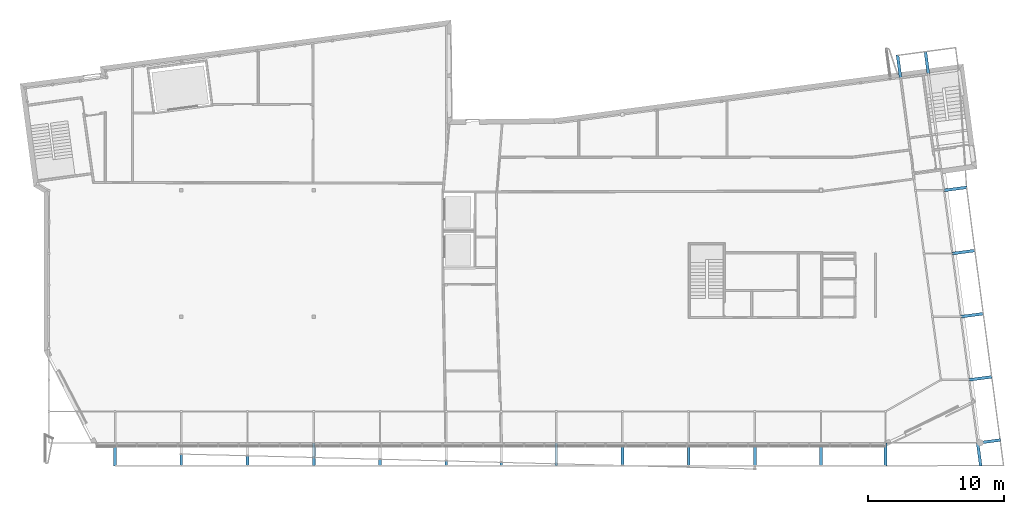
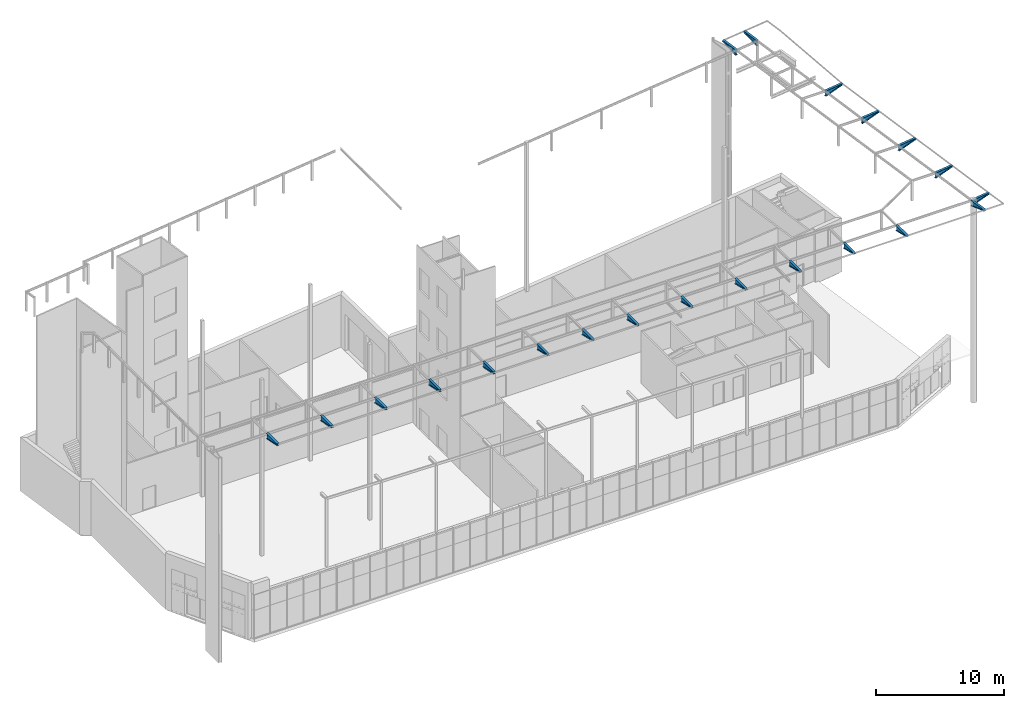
# One storey, part 30 of 40: 22 beams.
"""IFC2X3 building model written with IfcOpenShell, lengths in metres."""

import ifcopenshell
import ifcopenshell.guid

model = None  # the IFC model being written
_history = None  # IfcOwnerHistory: only IFC2X3 demands one
_inside = {}  # id of a spatial element -> (the spatial element, [elements in it])
_under = {}  # id of a project, library or spatial element -> (it, [spatial elements below it])
_declared = {}  # id of a project -> (the project, [libraries it declares])
_typed = {}  # id of a type object -> (the type object, [elements of that type])
_made_of = {}  # id of a material, layer set ... -> (it, [elements and type objects made of it])


def new_model(schema):
    """Start an empty IFC model of exactly this schema.

    Asked for "IFC4X3", IfcOpenShell would pick the latest addendum, in which some entities
    have other attributes; the version numbers below select the first issue.
    IFC2X3 requires an IfcOwnerHistory on every rooted entity: one is made here for all.
    """
    global model, _history
    if schema == "IFC4X3":
        model = ifcopenshell.file(schema_version=(4, 3, 0, 0))
    else:
        model = ifcopenshell.file(schema=schema)
    _inside.clear()
    _under.clear()
    _declared.clear()
    _typed.clear()
    _made_of.clear()
    _history = None
    if model.schema == "IFC2X3":
        org = make("IfcOrganization", Name="unknown")
        user = make(
            "IfcPersonAndOrganization",
            ThePerson=make("IfcPerson", FamilyName="unknown"),
            TheOrganization=org,
        )
        app = make(
            "IfcApplication",
            ApplicationDeveloper=org,
            Version="unknown",
            ApplicationFullName="unknown",
            ApplicationIdentifier="unknown",
        )
        _history = make(
            "IfcOwnerHistory",
            OwningUser=user,
            OwningApplication=app,
            ChangeAction="ADDED",
            CreationDate=0,
        )
    return model


def make(cls, **values):
    """One entity of the class cls with the attributes given. An attribute that is None is left unset."""
    return model.create_entity(
        cls, **{name: value for name, value in values.items() if value is not None}
    )


def entity(cls, *values):
    """Any entity or typed value of the class cls, its attributes in the order of the schema. None: left unset."""
    e = model.create_entity(cls)
    for i, value in enumerate(values):
        if value is not None:
            e[i] = value
    return e


def rooted(cls, **values):
    """An entity with a GlobalId (a new one), such as an element, a storey or a relation."""
    return make(cls, GlobalId=ifcopenshell.guid.new(), OwnerHistory=_history, **values)


def si_unit(unit_type, name, prefix=None):
    """IfcSIUnit, for example si_unit("LENGTHUNIT", "METRE", prefix="MILLI")."""
    return make("IfcSIUnit", UnitType=unit_type, Prefix=prefix, Name=name)


def converted_unit(unit_type, name, factor, base, dimensions=None, offset=None):
    """IfcConversionBasedUnit, such as the inch: factor (a typed value) times the base unit."""
    return make(
        "IfcConversionBasedUnit"
        if offset is None
        else "IfcConversionBasedUnitWithOffset",
        ConversionOffset=offset,
        Dimensions=None
        if dimensions is None
        else entity("IfcDimensionalExponents", *dimensions),
        UnitType=unit_type,
        Name=name,
        ConversionFactor=make(
            "IfcMeasureWithUnit", ValueComponent=factor, UnitComponent=base
        ),
    )


def money_unit(currency):
    """IfcMonetaryUnit."""
    return make("IfcMonetaryUnit", Currency=currency)


def assignment(units):
    """IfcUnitAssignment: the units of a project."""
    return None if units is None else make("IfcUnitAssignment", Units=units)


def point(xyz):
    """IfcCartesianPoint."""
    return None if xyz is None else make("IfcCartesianPoint", Coordinates=xyz)


def direction(xyz):
    """IfcDirection."""
    return None if xyz is None else make("IfcDirection", DirectionRatios=xyz)


def frame(location, z_axis=None, x_axis=None):
    """IfcAxis2Placement3D, a coordinate frame: its origin and axes. An axis left out is left unset."""
    return make(
        "IfcAxis2Placement3D",
        Location=point(location),
        Axis=direction(z_axis),
        RefDirection=direction(x_axis),
    )


def origin_with_axes():
    """The frame at (0, 0, 0) with the z axis (0, 0, 1) and the x axis (1, 0, 0) written out."""
    return frame((0.0, 0.0, 0.0), z_axis=(0.0, 0.0, 1.0), x_axis=(1.0, 0.0, 0.0))


def place(relative_to, where):
    """IfcLocalPlacement: puts the frame where relative to a parent placement (None: the world)."""
    return make(
        "IfcLocalPlacement", PlacementRelTo=relative_to, RelativePlacement=where
    )


def context(
    kind, dimensions, precision=None, world=None, true_north=None, identifier=None
):
    """IfcGeometricRepresentationContext, for example the 3D "Model" context."""
    return make(
        "IfcGeometricRepresentationContext",
        ContextIdentifier=identifier,
        ContextType=kind,
        CoordinateSpaceDimension=dimensions,
        Precision=precision,
        WorldCoordinateSystem=world,
        TrueNorth=true_north,
    )


def subcontext(parent, identifier, kind, view, scale=None):
    """IfcGeometricRepresentationSubContext, for example "Body" below "Model"."""
    return make(
        "IfcGeometricRepresentationSubContext",
        ContextIdentifier=identifier,
        ContextType=kind,
        ParentContext=parent,
        TargetScale=scale,
        TargetView=view,
    )


def project(units=None, contexts=None):
    """IfcProject with its units and contexts."""
    return rooted(
        "IfcProject",
        Name="project",
        RepresentationContexts=contexts,
        UnitsInContext=assignment(units),
    )


def spatial(cls, under=None, at=None, **own):
    """A site, building, storey or space (cls), placed at a placement, below another one or the project."""
    s = rooted(cls, ObjectPlacement=at, **own)
    if under is not None:
        _under.setdefault(under.id(), (under, []))[1].append(s)
    return s


def faces_of(points, faces, orient=None, outer=None):
    """IfcFace entities. A face is a list of loops; a loop is a list of indices into points, from 0.

    orient and outer hold one flag for each loop. By default every Orientation is true, the
    first loop of a face is its IfcFaceOuterBound and the others are IfcFaceBound.
    """
    made = []
    for i, loops in enumerate(faces):
        bounds = []
        for j, loop in enumerate(loops):
            is_outer = j == 0 if outer is None else outer[i][j]
            bounds.append(
                make(
                    "IfcFaceOuterBound" if is_outer else "IfcFaceBound",
                    Bound=make("IfcPolyLoop", Polygon=[points[k] for k in loop]),
                    Orientation=True if orient is None else orient[i][j],
                )
            )
        made.append(make("IfcFace", Bounds=bounds))
    return made


def faceted_brep(points, faces, orient=None, outer=None, voids=None):
    """IfcFacetedBrep: a solid bounded by flat faces; with voids (closed shells), ...WithVoids."""
    shared = [point(p) for p in points]
    hull = make("IfcClosedShell", CfsFaces=faces_of(shared, faces, orient, outer))
    if voids is None:
        return make("IfcFacetedBrep", Outer=hull)
    return make(
        "IfcFacetedBrepWithVoids",
        Outer=hull,
        Voids=[
            make(cls, CfsFaces=faces_of(shared, fs, o, b)) for cls, fs, o, b in voids
        ],
    )


def shape(context_of_items, identifier, shape_type, items):
    """IfcShapeRepresentation: the items that make up one representation, for example the "Body"."""
    return make(
        "IfcShapeRepresentation",
        ContextOfItems=context_of_items,
        RepresentationIdentifier=identifier,
        RepresentationType=shape_type,
        Items=items,
    )


def source(mapping_origin, context_of_items, identifier, shape_type, items):
    """IfcRepresentationMap: a shape defined once, which mapped items show again and again."""
    return make(
        "IfcRepresentationMap",
        MappingOrigin=mapping_origin,
        MappedRepresentation=shape(context_of_items, identifier, shape_type, items),
    )


def transform(
    local_origin,
    x_axis=None,
    y_axis=None,
    z_axis=None,
    scale=None,
    scale2=None,
    scale3=None,
    uniform=True,
):
    """IfcCartesianTransformationOperator3D, or its non-uniform kind. x_axis, y_axis, z_axis: its Axis1, 2, 3."""
    if uniform:
        return make(
            "IfcCartesianTransformationOperator3D",
            Axis1=direction(x_axis),
            Axis2=direction(y_axis),
            LocalOrigin=point(local_origin),
            Scale=scale,
            Axis3=direction(z_axis),
        )
    return make(
        "IfcCartesianTransformationOperator3DnonUniform",
        Axis1=direction(x_axis),
        Axis2=direction(y_axis),
        LocalOrigin=point(local_origin),
        Scale=scale,
        Axis3=direction(z_axis),
        Scale2=scale2,
        Scale3=scale3,
    )


def mapped(mapping_source, mapping_target):
    """IfcMappedItem: shows the shape of a source again, moved by a transform."""
    return make(
        "IfcMappedItem", MappingSource=mapping_source, MappingTarget=mapping_target
    )


def material(Name=None, Category=None):
    """IfcMaterial."""
    return make("IfcMaterial", Name=Name, Category=Category)


def made_of(thing, what):
    """Note that an element or type object is made of a material, layer set ...; save() writes the relation."""
    if what is not None:
        _made_of.setdefault(what.id(), (what, []))[1].append(thing)
    return thing


def type_object(cls, material=None, **own):
    """A type object (cls), such as IfcWallType, which elements share."""
    return made_of(rooted(cls, **own), material)


def element(
    cls,
    number,
    at=None,
    inside=None,
    cuts=None,
    type_object=None,
    material=None,
    context=None,
    identifier="Body",
    shape_type=None,
    held_by="IfcProductDefinitionShape",
    body=None,
    shapes=None,
    **own,
):
    """One element of the class cls, such as IfcWall. Its Tag is "e" and its number.

    at: its placement. inside: the storey or other place that contains it. cuts: it is an
    opening in that element (IfcRelVoidsElement). A single representation is given by context,
    identifier, shape_type and body (its items); several are given by shapes. held_by: the class
    of the entity that holds the representations. save() writes the other relations.
    """
    e = rooted(cls, Tag="e%d" % number, ObjectPlacement=at, **own)
    if body is not None:
        shapes = [shape(context, identifier, shape_type, body)]
    if shapes is not None:
        e.Representation = make(held_by, Representations=shapes)
    if inside is not None:
        _inside.setdefault(inside.id(), (inside, []))[1].append(e)
    if cuts is not None:
        rooted(
            "IfcRelVoidsElement", RelatingBuildingElement=cuts, RelatedOpeningElement=e
        )
    if type_object is not None:
        _typed.setdefault(type_object.id(), (type_object, []))[1].append(e)
    return made_of(e, material)


def aggregate(whole, parts):
    """IfcRelAggregates: a whole, such as a stair, and the parts it consists of."""
    return rooted("IfcRelAggregates", RelatingObject=whole, RelatedObjects=parts)


def save(model, path):
    """Write the relations noted so far, then the file.

    IfcRelAggregates (storeys below a building ...), IfcRelContainedInSpatialStructure (elements
    in a storey), IfcRelDefinesByType, IfcRelAssociatesMaterial and IfcRelDeclares: one each for
    every whole, place, type object, material and project.
    """
    for whole, parts in _under.values():
        aggregate(whole, parts)
    for where, things in _inside.values():
        rooted(
            "IfcRelContainedInSpatialStructure",
            RelatedElements=things,
            RelatingStructure=where,
        )
    for kind, things in _typed.values():
        rooted("IfcRelDefinesByType", RelatedObjects=things, RelatingType=kind)
    for what, things in _made_of.values():
        rooted("IfcRelAssociatesMaterial", RelatedObjects=things, RelatingMaterial=what)
    for by, libraries in _declared.values():
        rooted("IfcRelDeclares", RelatingContext=by, RelatedDefinitions=libraries)
    model.write(path)


model = new_model("IFC2X3")

# Units and contexts
model_context = context("Model", 3, precision=1e-05, world=origin_with_axes(), true_north=direction((0.0, 1.0)))
body_context = subcontext(model_context, "Body", "Model", "MODEL_VIEW")
ifc_project = project(units=[si_unit("LENGTHUNIT", "METRE"), si_unit("AREAUNIT", "SQUARE_METRE"), si_unit("VOLUMEUNIT", "CUBIC_METRE"), converted_unit("PLANEANGLEUNIT", "DEGREE", entity("IfcPlaneAngleMeasure", 0.0174532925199), si_unit("PLANEANGLEUNIT", "RADIAN"), dimensions=[0, 0, 0, 0, 0, 0, 0]), si_unit("SOLIDANGLEUNIT", "STERADIAN"), money_unit("EUR"), converted_unit("TIMEUNIT", "Year", entity("IfcTimeMeasure", 31556926.0), si_unit("TIMEUNIT", "SECOND"), dimensions=[0, 0, 0, 0, 0, 0, 0]), si_unit("MASSUNIT", "GRAM"), si_unit("THERMODYNAMICTEMPERATUREUNIT", "DEGREE_CELSIUS"), si_unit("LUMINOUSINTENSITYUNIT", "LUMEN")], contexts=[model_context])

# Site, building, storey
site_placement = place(None, origin_with_axes())
site = spatial("IfcSite", under=ifc_project, at=site_placement, Name="Undefined", CompositionType="ELEMENT")
building_placement = place(site_placement, origin_with_axes())
building = spatial("IfcBuilding", under=site, at=building_placement, Name="Undefined", CompositionType="ELEMENT")
storey_placement = place(building_placement, origin_with_axes())
storey = spatial("IfcBuildingStorey", under=building, at=storey_placement, Name="Rez de chauss\x8ee", CompositionType="ELEMENT", Elevation=0.0)

# Beams
ifc_material = material(Name="50 %")
beam_type_1 = type_object("IfcBeamType", Name="PHI533-200-10-14*210-14*210", PredefinedType="NOTDEFINED")
shared_shape_1 = source(origin_with_axes(), body_context, "Body", "Brep", [
    faceted_brep([(0.0, -0.105, 0.1), (0.0, -0.105, 0.086), (1.7, -0.105, 0.086), (1.7, -0.105, 0.1), (0.0, 0.105, 0.1), (0.0, 0.105, 0.086), (0.0, 0.005, 0.086), (0.0, 0.005, -0.418734), (0.0, 0.105, -0.418734), (0.0, 0.105, -0.433), (0.0, -0.105, -0.433), (0.0, -0.105, -0.418734), (0.0, -0.005, -0.418734), (0.0, -0.005, 0.086), (1.7, -0.005, 0.086), (1.7, -0.005, -0.085734), (1.7, -0.105, -0.085734), (1.7, -0.105, -0.1), (1.7, 0.105, -0.1), (1.7, 0.105, -0.085734), (1.7, 0.005, -0.085734), (1.7, 0.005, 0.086), (1.7, 0.105, 0.086), (1.7, 0.105, 0.1)], [[[0, 1, 2, 3]], [[4, 5, 6, 7, 8, 9, 10, 11, 12, 13, 1, 0]], [[1, 13, 14, 2]], [[14, 15, 16, 17, 18, 19, 20, 21, 22, 23, 3, 2]], [[4, 0, 3, 23]], [[5, 4, 23, 22]], [[6, 5, 22, 21]], [[7, 6, 21, 20]], [[8, 7, 20, 19]], [[9, 8, 19, 18]], [[10, 9, 18, 17]], [[11, 10, 17, 16]], [[12, 11, 16, 15]], [[13, 12, 15, 14]]]),
])
beam_1_placement = place(storey_placement, frame((4.87499951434, -4.04974360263e-10, 19.0250297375), z_axis=(0.0, 0.0, 1.0), x_axis=(0.0, -1.0, 0.0)))
element("IfcBeam", 1, at=beam_1_placement, inside=storey, type_object=beam_type_1, material=ifc_material, Name="BEAM", ObjectType="PHI533-200-10-14*210-14*210", context=body_context, shape_type="MappedRepresentation", body=[
    mapped(shared_shape_1, transform((0.0, 0.0, 0.0))),
])
shared_shape_2 = source(origin_with_axes(), body_context, "Body", "Brep", [
    faceted_brep([(0.0, -0.105, 0.1), (0.0, -0.105, 0.086), (1.7, -0.105, 0.086), (1.7, -0.105, 0.1), (0.0, 0.105, 0.1), (0.0, 0.105, 0.086), (0.0, 0.005, 0.086), (0.0, 0.005, -0.418734), (0.0, 0.105, -0.418734), (0.0, 0.105, -0.433), (0.0, -0.105, -0.433), (0.0, -0.105, -0.418734), (0.0, -0.005, -0.418734), (0.0, -0.005, 0.086), (1.7, -0.005, 0.086), (1.7, -0.005, -0.085734), (1.7, -0.105, -0.085734), (1.7, -0.105, -0.1), (1.7, 0.105, -0.1), (1.7, 0.105, -0.085734), (1.7, 0.005, -0.085734), (1.7, 0.005, 0.086), (1.7, 0.105, 0.086), (1.7, 0.105, 0.1)], [[[0, 1, 2, 3]], [[4, 5, 6, 7, 8, 9, 10, 11, 12, 13, 1, 0]], [[1, 13, 14, 2]], [[14, 15, 16, 17, 18, 19, 20, 21, 22, 23, 3, 2]], [[4, 0, 3, 23]], [[5, 4, 23, 22]], [[6, 5, 22, 21]], [[7, 6, 21, 20]], [[8, 7, 20, 19]], [[9, 8, 19, 18]], [[10, 9, 18, 17]], [[11, 10, 17, 16]], [[12, 11, 16, 15]], [[13, 12, 15, 14]]]),
])
beam_2_placement = place(storey_placement, frame((14.6249995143, -1.18659971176e-10, 19.0250297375), z_axis=(0.0, 0.0, 1.0), x_axis=(0.0, -1.0, 0.0)))
element("IfcBeam", 2, at=beam_2_placement, inside=storey, type_object=beam_type_1, material=ifc_material, Name="BEAM", ObjectType="PHI533-200-10-14*210-14*210", context=body_context, shape_type="MappedRepresentation", body=[
    mapped(shared_shape_2, transform((0.0, 0.0, 0.0))),
])
beam_type_2 = type_object("IfcBeamType", Name="PHI533-125-10-14*210-14*210", PredefinedType="NOTDEFINED")
shared_shape_3 = source(origin_with_axes(), body_context, "Body", "Brep", [
    faceted_brep([(0.0, -0.105, 0.0625), (0.0, -0.105, 0.0485), (1.7, -0.105, 0.0485), (1.7, -0.105, 0.0625), (0.0, 0.105, 0.0625), (0.0, 0.105, 0.0485), (0.0, 0.005, 0.0485), (0.0, 0.005, -0.456102), (0.0, 0.105, -0.456102), (0.0, 0.105, -0.4705), (0.0, -0.105, -0.4705), (0.0, -0.105, -0.456102), (0.0, -0.005, -0.456102), (0.0, -0.005, 0.0485), (1.7, -0.005, 0.0485), (1.7, -0.005, -0.048102), (1.7, -0.105, -0.048102), (1.7, -0.105, -0.0625), (1.7, 0.105, -0.0625), (1.7, 0.105, -0.048102), (1.7, 0.005, -0.048102), (1.7, 0.005, 0.0485), (1.7, 0.105, 0.0485), (1.7, 0.105, 0.0625)], [[[0, 1, 2, 3]], [[4, 5, 6, 7, 8, 9, 10, 11, 12, 13, 1, 0]], [[1, 13, 14, 2]], [[14, 15, 16, 17, 18, 19, 20, 21, 22, 23, 3, 2]], [[4, 0, 3, 23]], [[5, 4, 23, 22]], [[6, 5, 22, 21]], [[7, 6, 21, 20]], [[8, 7, 20, 19]], [[9, 8, 19, 18]], [[10, 9, 18, 17]], [[11, 10, 17, 16]], [[12, 11, 16, 15]], [[13, 12, 15, 14]]]),
])
beam_3_placement = place(storey_placement, frame((47.109681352, -5.3320313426e-08, 19.0250000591), z_axis=(0.0, 0.0, 1.0), x_axis=(0.0, -1.0, 0.0)))
element("IfcBeam", 3, at=beam_3_placement, inside=storey, type_object=beam_type_2, material=ifc_material, Name="BEAM", ObjectType="PHI533-125-10-14*210-14*210", context=body_context, shape_type="MappedRepresentation", body=[
    mapped(shared_shape_3, transform((0.0, 0.0, 0.0))),
])
shared_shape_4 = source(origin_with_axes(), body_context, "Body", "Brep", [
    faceted_brep([(0.0, -0.105, 0.0625), (0.0, -0.105, 0.0485), (1.7, -0.105, 0.0485), (1.7, -0.105, 0.0625), (0.0, 0.105, 0.0625), (0.0, 0.105, 0.0485), (0.0, 0.005, 0.0485), (0.0, 0.005, -0.456102), (0.0, 0.105, -0.456102), (0.0, 0.105, -0.4705), (0.0, -0.105, -0.4705), (0.0, -0.105, -0.456102), (0.0, -0.005, -0.456102), (0.0, -0.005, 0.0485), (1.7, -0.005, 0.0485), (1.7, -0.005, -0.048102), (1.7, -0.105, -0.048102), (1.7, -0.105, -0.0625), (1.7, 0.105, -0.0625), (1.7, 0.105, -0.048102), (1.7, 0.005, -0.048102), (1.7, 0.005, 0.0485), (1.7, 0.105, 0.0485), (1.7, 0.105, 0.0625)], [[[0, 1, 2, 3]], [[4, 5, 6, 7, 8, 9, 10, 11, 12, 13, 1, 0]], [[1, 13, 14, 2]], [[14, 15, 16, 17, 18, 19, 20, 21, 22, 23, 3, 2]], [[4, 0, 3, 23]], [[5, 4, 23, 22]], [[6, 5, 22, 21]], [[7, 6, 21, 20]], [[8, 7, 20, 19]], [[9, 8, 19, 18]], [[10, 9, 18, 17]], [[11, 10, 17, 16]], [[12, 11, 16, 15]], [[13, 12, 15, 14]]]),
])
beam_4_placement = place(storey_placement, frame((68.3826499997, 1.45996364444e-09, 19.025), z_axis=(0.0, 0.0, 1.0), x_axis=(0.991215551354, 0.132256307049, 0.0)))
element("IfcBeam", 4, at=beam_4_placement, inside=storey, type_object=beam_type_2, material=ifc_material, Name="BEAM", ObjectType="PHI533-125-10-14*210-14*210", context=body_context, shape_type="MappedRepresentation", body=[
    mapped(shared_shape_4, transform((0.0, 0.0, 0.0))),
])
shared_shape_5 = source(origin_with_axes(), body_context, "Body", "Brep", [
    faceted_brep([(0.0, -0.105, 0.0625), (0.0, -0.105, 0.0485), (1.7, -0.105, 0.0485), (1.7, -0.105, 0.0625), (0.0, 0.105, 0.0625), (0.0, 0.105, 0.0485), (0.0, 0.005, 0.0485), (0.0, 0.005, -0.456102), (0.0, 0.105, -0.456102), (0.0, 0.105, -0.4705), (0.0, -0.105, -0.4705), (0.0, -0.105, -0.456102), (0.0, -0.005, -0.456102), (0.0, -0.005, 0.0485), (1.7, -0.005, 0.0485), (1.7, -0.005, -0.048102), (1.7, -0.105, -0.048102), (1.7, -0.105, -0.0625), (1.7, 0.105, -0.0625), (1.7, 0.105, -0.048102), (1.7, 0.005, -0.048102), (1.7, 0.005, 0.0485), (1.7, 0.105, 0.0485), (1.7, 0.105, 0.0625)], [[[0, 1, 2, 3]], [[4, 5, 6, 7, 8, 9, 10, 11, 12, 13, 1, 0]], [[1, 13, 14, 2]], [[14, 15, 16, 17, 18, 19, 20, 21, 22, 23, 3, 2]], [[4, 0, 3, 23]], [[5, 4, 23, 22]], [[6, 5, 22, 21]], [[7, 6, 21, 20]], [[8, 7, 20, 19]], [[9, 8, 19, 18]], [[10, 9, 18, 17]], [[11, 10, 17, 16]], [[12, 11, 16, 15]], [[13, 12, 15, 14]]]),
])
beam_5_placement = place(storey_placement, frame((29.2574609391, -5.38445466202e-08, 19.024999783), z_axis=(0.0, 0.0, 1.0), x_axis=(0.0, -1.0, 0.0)))
element("IfcBeam", 5, at=beam_5_placement, inside=storey, type_object=beam_type_2, material=ifc_material, Name="BEAM", ObjectType="PHI533-125-10-14*210-14*210", context=body_context, shape_type="MappedRepresentation", body=[
    mapped(shared_shape_5, transform((0.0, 0.0, 0.0))),
])
shared_shape_6 = source(origin_with_axes(), body_context, "Body", "Brep", [
    faceted_brep([(0.0, -0.105, 0.0625), (0.0, -0.105, 0.0485), (1.7, -0.105, 0.0485), (1.7, -0.105, 0.0625), (0.0, 0.105, 0.0625), (0.0, 0.105, 0.0485), (0.0, 0.005, 0.0485), (0.0, 0.005, -0.456102), (0.0, 0.105, -0.456102), (0.0, 0.105, -0.4705), (0.0, -0.105, -0.4705), (0.0, -0.105, -0.456102), (0.0, -0.005, -0.456102), (0.0, -0.005, 0.0485), (1.7, -0.005, 0.0485), (1.7, -0.005, -0.048102), (1.7, -0.105, -0.048102), (1.7, -0.105, -0.0625), (1.7, 0.105, -0.0625), (1.7, 0.105, -0.048102), (1.7, 0.005, -0.048102), (1.7, 0.005, 0.0485), (1.7, 0.105, 0.0485), (1.7, 0.105, 0.0625)], [[[0, 1, 2, 3]], [[4, 5, 6, 7, 8, 9, 10, 11, 12, 13, 1, 0]], [[1, 13, 14, 2]], [[14, 15, 16, 17, 18, 19, 20, 21, 22, 23, 3, 2]], [[4, 0, 3, 23]], [[5, 4, 23, 22]], [[6, 5, 22, 21]], [[7, 6, 21, 20]], [[8, 7, 20, 19]], [[9, 8, 19, 18]], [[10, 9, 18, 17]], [[11, 10, 17, 16]], [[12, 11, 16, 15]], [[13, 12, 15, 14]]]),
])
beam_6_placement = place(storey_placement, frame((64.7585009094, 27.1605824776, 19.025), z_axis=(0.0, 0.0, 1.0), x_axis=(-0.132256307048, 0.991215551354, 0.0)))
element("IfcBeam", 6, at=beam_6_placement, inside=storey, type_object=beam_type_2, material=ifc_material, Name="BEAM", ObjectType="PHI533-125-10-14*210-14*210", context=body_context, shape_type="MappedRepresentation", body=[
    mapped(shared_shape_6, transform((0.0, 0.0, 0.0))),
])
shared_shape_7 = source(origin_with_axes(), body_context, "Body", "Brep", [
    faceted_brep([(0.0, -0.105, 0.0625), (0.0, -0.105, 0.0485), (1.7, -0.105, 0.0485), (1.7, -0.105, 0.0625), (0.0, 0.105, 0.0625), (0.0, 0.105, 0.0485), (0.0, 0.005, 0.0485), (0.0, 0.005, -0.456102), (0.0, 0.105, -0.456102), (0.0, 0.105, -0.4705), (0.0, -0.105, -0.4705), (0.0, -0.105, -0.456102), (0.0, -0.005, -0.456102), (0.0, -0.005, 0.0485), (1.7, -0.005, 0.0485), (1.7, -0.005, -0.048102), (1.7, -0.105, -0.048102), (1.7, -0.105, -0.0625), (1.7, 0.105, -0.0625), (1.7, 0.105, -0.048102), (1.7, 0.005, -0.048102), (1.7, 0.005, 0.0485), (1.7, 0.105, 0.0485), (1.7, 0.105, 0.0625)], [[[0, 1, 2, 3]], [[4, 5, 6, 7, 8, 9, 10, 11, 12, 13, 1, 0]], [[1, 13, 14, 2]], [[14, 15, 16, 17, 18, 19, 20, 21, 22, 23, 3, 2]], [[4, 0, 3, 23]], [[5, 4, 23, 22]], [[6, 5, 22, 21]], [[7, 6, 21, 20]], [[8, 7, 20, 19]], [[9, 8, 19, 18]], [[10, 9, 18, 17]], [[11, 10, 17, 16]], [[12, 11, 16, 15]], [[13, 12, 15, 14]]]),
])
beam_7_placement = place(storey_placement, frame((62.7066609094, 26.8868124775, 19.025), z_axis=(0.0, 0.0, 1.0), x_axis=(-0.132256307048, 0.991215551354, 0.0)))
element("IfcBeam", 7, at=beam_7_placement, inside=storey, type_object=beam_type_2, material=ifc_material, Name="BEAM", ObjectType="PHI533-125-10-14*210-14*210", context=body_context, shape_type="MappedRepresentation", body=[
    mapped(shared_shape_7, transform((0.0, 0.0, 0.0))),
])
shared_shape_8 = source(origin_with_axes(), body_context, "Body", "Brep", [
    faceted_brep([(0.0, -0.105, 0.0625), (0.0, -0.105, 0.0485), (1.7, -0.105, 0.0485), (1.7, -0.105, 0.0625), (0.0, 0.105, 0.0625), (0.0, 0.105, 0.0485), (0.0, 0.005, 0.0485), (0.0, 0.005, -0.456102), (0.0, 0.105, -0.456102), (0.0, 0.105, -0.4705), (0.0, -0.105, -0.4705), (0.0, -0.105, -0.456102), (0.0, -0.005, -0.456102), (0.0, -0.005, 0.0485), (1.7, -0.005, 0.0485), (1.7, -0.005, -0.048102), (1.7, -0.105, -0.048102), (1.7, -0.105, -0.0625), (1.7, 0.105, -0.0625), (1.7, 0.105, -0.048102), (1.7, 0.005, -0.048102), (1.7, 0.005, 0.0485), (1.7, 0.105, 0.0485), (1.7, 0.105, 0.0625)], [[[0, 1, 2, 3]], [[4, 5, 6, 7, 8, 9, 10, 11, 12, 13, 1, 0]], [[1, 13, 14, 2]], [[14, 15, 16, 17, 18, 19, 20, 21, 22, 23, 3, 2]], [[4, 0, 3, 23]], [[5, 4, 23, 22]], [[6, 5, 22, 21]], [[7, 6, 21, 20]], [[8, 7, 20, 19]], [[9, 8, 19, 18]], [[10, 9, 18, 17]], [[11, 10, 17, 16]], [[12, 11, 16, 15]], [[13, 12, 15, 14]]]),
])
beam_8_placement = place(storey_placement, frame((65.9105599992, 18.6012900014, 19.025), z_axis=(0.0, 0.0, 1.0), x_axis=(0.991215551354, 0.132256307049, 0.0)))
element("IfcBeam", 8, at=beam_8_placement, inside=storey, type_object=beam_type_2, material=ifc_material, Name="BEAM", ObjectType="PHI533-125-10-14*210-14*210", context=body_context, shape_type="MappedRepresentation", body=[
    mapped(shared_shape_8, transform((0.0, 0.0, 0.0))),
])
shared_shape_9 = source(origin_with_axes(), body_context, "Body", "Brep", [
    faceted_brep([(0.0, -0.105, 0.0625), (0.0, -0.105, 0.0485), (1.7, -0.105, 0.0485), (1.7, -0.105, 0.0625), (0.0, 0.105, 0.0625), (0.0, 0.105, 0.0485), (0.0, 0.005, 0.0485), (0.0, 0.005, -0.456102), (0.0, 0.105, -0.456102), (0.0, 0.105, -0.4705), (0.0, -0.105, -0.4705), (0.0, -0.105, -0.456102), (0.0, -0.005, -0.456102), (0.0, -0.005, 0.0485), (1.7, -0.005, 0.0485), (1.7, -0.005, -0.048102), (1.7, -0.105, -0.048102), (1.7, -0.105, -0.0625), (1.7, 0.105, -0.0625), (1.7, 0.105, -0.048102), (1.7, 0.005, -0.048102), (1.7, 0.005, 0.0485), (1.7, 0.105, 0.0485), (1.7, 0.105, 0.0625)], [[[0, 1, 2, 3]], [[4, 5, 6, 7, 8, 9, 10, 11, 12, 13, 1, 0]], [[1, 13, 14, 2]], [[14, 15, 16, 17, 18, 19, 20, 21, 22, 23, 3, 2]], [[4, 0, 3, 23]], [[5, 4, 23, 22]], [[6, 5, 22, 21]], [[7, 6, 21, 20]], [[8, 7, 20, 19]], [[9, 8, 19, 18]], [[10, 9, 18, 17]], [[11, 10, 17, 16]], [[12, 11, 16, 15]], [[13, 12, 15, 14]]]),
])
beam_9_placement = place(storey_placement, frame((66.5213299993, 13.9500000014, 19.025), z_axis=(0.0, 0.0, 1.0), x_axis=(0.991215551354, 0.132256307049, 0.0)))
element("IfcBeam", 9, at=beam_9_placement, inside=storey, type_object=beam_type_2, material=ifc_material, Name="BEAM", ObjectType="PHI533-125-10-14*210-14*210", context=body_context, shape_type="MappedRepresentation", body=[
    mapped(shared_shape_9, transform((0.0, 0.0, 0.0))),
])
shared_shape_10 = source(origin_with_axes(), body_context, "Body", "Brep", [
    faceted_brep([(0.0, -0.105, 0.0625), (0.0, -0.105, 0.0485), (1.7, -0.105, 0.0485), (1.7, -0.105, 0.0625), (0.0, 0.105, 0.0625), (0.0, 0.105, 0.0485), (0.0, 0.005, 0.0485), (0.0, 0.005, -0.456102), (0.0, 0.105, -0.456102), (0.0, 0.105, -0.4705), (0.0, -0.105, -0.4705), (0.0, -0.105, -0.456102), (0.0, -0.005, -0.456102), (0.0, -0.005, 0.0485), (1.7, -0.005, 0.0485), (1.7, -0.005, -0.048102), (1.7, -0.105, -0.048102), (1.7, -0.105, -0.0625), (1.7, 0.105, -0.0625), (1.7, 0.105, -0.048102), (1.7, 0.005, -0.048102), (1.7, 0.005, 0.0485), (1.7, 0.105, 0.0485), (1.7, 0.105, 0.0625)], [[[0, 1, 2, 3]], [[4, 5, 6, 7, 8, 9, 10, 11, 12, 13, 1, 0]], [[1, 13, 14, 2]], [[14, 15, 16, 17, 18, 19, 20, 21, 22, 23, 3, 2]], [[4, 0, 3, 23]], [[5, 4, 23, 22]], [[6, 5, 22, 21]], [[7, 6, 21, 20]], [[8, 7, 20, 19]], [[9, 8, 19, 18]], [[10, 9, 18, 17]], [[11, 10, 17, 16]], [[12, 11, 16, 15]], [[13, 12, 15, 14]]]),
])
beam_10_placement = place(storey_placement, frame((67.1417699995, 9.30000000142, 19.025), z_axis=(0.0, 0.0, 1.0), x_axis=(0.991215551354, 0.132256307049, 0.0)))
element("IfcBeam", 10, at=beam_10_placement, inside=storey, type_object=beam_type_2, material=ifc_material, Name="BEAM", ObjectType="PHI533-125-10-14*210-14*210", context=body_context, shape_type="MappedRepresentation", body=[
    mapped(shared_shape_10, transform((0.0, 0.0, 0.0))),
])
shared_shape_11 = source(origin_with_axes(), body_context, "Body", "Brep", [
    faceted_brep([(0.0, -0.105, 0.0625), (0.0, -0.105, 0.0485), (1.7, -0.105, 0.0485), (1.7, -0.105, 0.0625), (0.0, 0.105, 0.0625), (0.0, 0.105, 0.0485), (0.0, 0.005, 0.0485), (0.0, 0.005, -0.456102), (0.0, 0.105, -0.456102), (0.0, 0.105, -0.4705), (0.0, -0.105, -0.4705), (0.0, -0.105, -0.456102), (0.0, -0.005, -0.456102), (0.0, -0.005, 0.0485), (1.7, -0.005, 0.0485), (1.7, -0.005, -0.048102), (1.7, -0.105, -0.048102), (1.7, -0.105, -0.0625), (1.7, 0.105, -0.0625), (1.7, 0.105, -0.048102), (1.7, 0.005, -0.048102), (1.7, 0.005, 0.0485), (1.7, 0.105, 0.0485), (1.7, 0.105, 0.0625)], [[[0, 1, 2, 3]], [[4, 5, 6, 7, 8, 9, 10, 11, 12, 13, 1, 0]], [[1, 13, 14, 2]], [[14, 15, 16, 17, 18, 19, 20, 21, 22, 23, 3, 2]], [[4, 0, 3, 23]], [[5, 4, 23, 22]], [[6, 5, 22, 21]], [[7, 6, 21, 20]], [[8, 7, 20, 19]], [[9, 8, 19, 18]], [[10, 9, 18, 17]], [[11, 10, 17, 16]], [[12, 11, 16, 15]], [[13, 12, 15, 14]]]),
])
beam_11_placement = place(storey_placement, frame((68.3826499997, 1.45996364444e-09, 19.025), z_axis=(0.0, 0.0, 1.0), x_axis=(0.132225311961, -0.991219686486, 0.0)))
element("IfcBeam", 11, at=beam_11_placement, inside=storey, type_object=beam_type_2, material=ifc_material, Name="BEAM", ObjectType="PHI533-125-10-14*210-14*210", context=body_context, shape_type="MappedRepresentation", body=[
    mapped(shared_shape_11, transform((0.0, 0.0, 0.0))),
])
shared_shape_12 = source(origin_with_axes(), body_context, "Body", "Brep", [
    faceted_brep([(0.0, -0.105, 0.1), (0.0, -0.105, 0.086), (1.7, -0.105, 0.086), (1.7, -0.105, 0.1), (0.0, 0.105, 0.1), (0.0, 0.105, 0.086), (0.0, 0.005, 0.086), (0.0, 0.005, -0.418734), (0.0, 0.105, -0.418734), (0.0, 0.105, -0.433), (0.0, -0.105, -0.433), (0.0, -0.105, -0.418734), (0.0, -0.005, -0.418734), (0.0, -0.005, 0.086), (1.7, -0.005, 0.086), (1.7, -0.005, -0.085734), (1.7, -0.105, -0.085734), (1.7, -0.105, -0.1), (1.7, 0.105, -0.1), (1.7, 0.105, -0.085734), (1.7, 0.005, -0.085734), (1.7, 0.005, 0.086), (1.7, 0.105, 0.086), (1.7, 0.105, 0.1)], [[[0, 1, 2, 3]], [[4, 5, 6, 7, 8, 9, 10, 11, 12, 13, 1, 0]], [[1, 13, 14, 2]], [[14, 15, 16, 17, 18, 19, 20, 21, 22, 23, 3, 2]], [[4, 0, 3, 23]], [[5, 4, 23, 22]], [[6, 5, 22, 21]], [[7, 6, 21, 20]], [[8, 7, 20, 19]], [[9, 8, 19, 18]], [[10, 9, 18, 17]], [[11, 10, 17, 16]], [[12, 11, 16, 15]], [[13, 12, 15, 14]]]),
])
beam_12_placement = place(storey_placement, frame((9.74999999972, -2.61817149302e-10, 19.025), z_axis=(0.0, 0.0, 1.0), x_axis=(0.0, -1.0, 0.0)))
element("IfcBeam", 12, at=beam_12_placement, inside=storey, type_object=beam_type_1, material=ifc_material, Name="BEAM", ObjectType="PHI533-200-10-14*210-14*210", context=body_context, shape_type="MappedRepresentation", body=[
    mapped(shared_shape_12, transform((0.0, 0.0, 0.0))),
])
shared_shape_13 = source(origin_with_axes(), body_context, "Body", "Brep", [
    faceted_brep([(0.0, -0.105, 0.0625), (0.0, -0.105, 0.0485), (1.7, -0.105, 0.0485), (1.7, -0.105, 0.0625), (0.0, 0.105, 0.0625), (0.0, 0.105, 0.0485), (0.0, 0.005, 0.0485), (0.0, 0.005, -0.456102), (0.0, 0.105, -0.456102), (0.0, 0.105, -0.4705), (0.0, -0.105, -0.4705), (0.0, -0.105, -0.456102), (0.0, -0.005, -0.456102), (0.0, -0.005, 0.0485), (1.7, -0.005, 0.0485), (1.7, -0.005, -0.048102), (1.7, -0.105, -0.048102), (1.7, -0.105, -0.0625), (1.7, 0.105, -0.0625), (1.7, 0.105, -0.048102), (1.7, 0.005, -0.048102), (1.7, 0.005, 0.0485), (1.7, 0.105, 0.0485), (1.7, 0.105, 0.0625)], [[[0, 1, 2, 3]], [[4, 5, 6, 7, 8, 9, 10, 11, 12, 13, 1, 0]], [[1, 13, 14, 2]], [[14, 15, 16, 17, 18, 19, 20, 21, 22, 23, 3, 2]], [[4, 0, 3, 23]], [[5, 4, 23, 22]], [[6, 5, 22, 21]], [[7, 6, 21, 20]], [[8, 7, 20, 19]], [[9, 8, 19, 18]], [[10, 9, 18, 17]], [[11, 10, 17, 16]], [[12, 11, 16, 15]], [[13, 12, 15, 14]]]),
])
beam_13_placement = place(storey_placement, frame((37.3596818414, -5.36066223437e-08, 19.0249997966), z_axis=(0.0, 0.0, 1.0), x_axis=(0.0, -1.0, 0.0)))
element("IfcBeam", 13, at=beam_13_placement, inside=storey, type_object=beam_type_2, material=ifc_material, Name="BEAM", ObjectType="PHI533-125-10-14*210-14*210", context=body_context, shape_type="MappedRepresentation", body=[
    mapped(shared_shape_13, transform((0.0, 0.0, 0.0))),
])
shared_shape_14 = source(origin_with_axes(), body_context, "Body", "Brep", [
    faceted_brep([(0.0, -0.105, 0.0625), (0.0, -0.105, 0.0485), (1.7, -0.105, 0.0485), (1.7, -0.105, 0.0625), (0.0, 0.105, 0.0625), (0.0, 0.105, 0.0485), (0.0, 0.005, 0.0485), (0.0, 0.005, -0.456102), (0.0, 0.105, -0.456102), (0.0, 0.105, -0.4705), (0.0, -0.105, -0.4705), (0.0, -0.105, -0.456102), (0.0, -0.005, -0.456102), (0.0, -0.005, 0.0485), (1.7, -0.005, 0.0485), (1.7, -0.005, -0.048102), (1.7, -0.105, -0.048102), (1.7, -0.105, -0.0625), (1.7, 0.105, -0.0625), (1.7, 0.105, -0.048102), (1.7, 0.005, -0.048102), (1.7, 0.005, 0.0485), (1.7, 0.105, 0.0485), (1.7, 0.105, 0.0625)], [[[0, 1, 2, 3]], [[4, 5, 6, 7, 8, 9, 10, 11, 12, 13, 1, 0]], [[1, 13, 14, 2]], [[14, 15, 16, 17, 18, 19, 20, 21, 22, 23, 3, 2]], [[4, 0, 3, 23]], [[5, 4, 23, 22]], [[6, 5, 22, 21]], [[7, 6, 21, 20]], [[8, 7, 20, 19]], [[9, 8, 19, 18]], [[10, 9, 18, 17]], [[11, 10, 17, 16]], [[12, 11, 16, 15]], [[13, 12, 15, 14]]]),
])
beam_14_placement = place(storey_placement, frame((42.2346818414, -5.34634642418e-08, 19.0250297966), z_axis=(0.0, 0.0, 1.0), x_axis=(0.0, -1.0, 0.0)))
element("IfcBeam", 14, at=beam_14_placement, inside=storey, type_object=beam_type_2, material=ifc_material, Name="BEAM", ObjectType="PHI533-125-10-14*210-14*210", context=body_context, shape_type="MappedRepresentation", body=[
    mapped(shared_shape_14, transform((0.0, 0.0, 0.0))),
])
shared_shape_15 = source(origin_with_axes(), body_context, "Body", "Brep", [
    faceted_brep([(0.0, -0.105, 0.1), (0.0, -0.105, 0.086), (1.7, -0.105, 0.086), (1.7, -0.105, 0.1), (0.0, 0.105, 0.1), (0.0, 0.105, 0.086), (0.0, 0.005, 0.086), (0.0, 0.005, -0.418734), (0.0, 0.105, -0.418734), (0.0, 0.105, -0.433), (0.0, -0.105, -0.433), (0.0, -0.105, -0.418734), (0.0, -0.005, -0.418734), (0.0, -0.005, 0.086), (1.7, -0.005, 0.086), (1.7, -0.005, -0.085734), (1.7, -0.105, -0.085734), (1.7, -0.105, -0.1), (1.7, 0.105, -0.1), (1.7, 0.105, -0.085734), (1.7, 0.005, -0.085734), (1.7, 0.005, 0.086), (1.7, 0.105, 0.086), (1.7, 0.105, 0.1)], [[[0, 1, 2, 3]], [[4, 5, 6, 7, 8, 9, 10, 11, 12, 13, 1, 0]], [[1, 13, 14, 2]], [[14, 15, 16, 17, 18, 19, 20, 21, 22, 23, 3, 2]], [[4, 0, 3, 23]], [[5, 4, 23, 22]], [[6, 5, 22, 21]], [[7, 6, 21, 20]], [[8, 7, 20, 19]], [[9, 8, 19, 18]], [[10, 9, 18, 17]], [[11, 10, 17, 16]], [[12, 11, 16, 15]], [[13, 12, 15, 14]]]),
])
beam_15_placement = place(storey_placement, frame((19.5074609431, 0.000209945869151, 19.025059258), z_axis=(0.0, 0.0, 1.0), x_axis=(0.0, -1.0, 0.0)))
element("IfcBeam", 15, at=beam_15_placement, inside=storey, type_object=beam_type_1, material=ifc_material, Name="BEAM", ObjectType="PHI533-200-10-14*210-14*210", context=body_context, shape_type="MappedRepresentation", body=[
    mapped(shared_shape_15, transform((0.0, 0.0, 0.0))),
])
shared_shape_16 = source(origin_with_axes(), body_context, "Body", "Brep", [
    faceted_brep([(0.0, -0.105, 0.0625), (0.0, -0.105, 0.0485), (1.7, -0.105, 0.0485), (1.7, -0.105, 0.0625), (0.0, 0.105, 0.0625), (0.0, 0.105, 0.0485), (0.0, 0.005, 0.0485), (0.0, 0.005, -0.456102), (0.0, 0.105, -0.456102), (0.0, 0.105, -0.4705), (0.0, -0.105, -0.4705), (0.0, -0.105, -0.456102), (0.0, -0.005, -0.456102), (0.0, -0.005, 0.0485), (1.7, -0.005, 0.0485), (1.7, -0.005, -0.048102), (1.7, -0.105, -0.048102), (1.7, -0.105, -0.0625), (1.7, 0.105, -0.0625), (1.7, 0.105, -0.048102), (1.7, 0.005, -0.048102), (1.7, 0.005, 0.0485), (1.7, 0.105, 0.0485), (1.7, 0.105, 0.0625)], [[[0, 1, 2, 3]], [[4, 5, 6, 7, 8, 9, 10, 11, 12, 13, 1, 0]], [[1, 13, 14, 2]], [[14, 15, 16, 17, 18, 19, 20, 21, 22, 23, 3, 2]], [[4, 0, 3, 23]], [[5, 4, 23, 22]], [[6, 5, 22, 21]], [[7, 6, 21, 20]], [[8, 7, 20, 19]], [[9, 8, 19, 18]], [[10, 9, 18, 17]], [[11, 10, 17, 16]], [[12, 11, 16, 15]], [[13, 12, 15, 14]]]),
])
beam_16_placement = place(storey_placement, frame((61.6096818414, -5.28945134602e-08, 19.0250297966), z_axis=(0.0, 0.0, 1.0), x_axis=(0.0, -1.0, 0.0)))
element("IfcBeam", 16, at=beam_16_placement, inside=storey, type_object=beam_type_2, material=ifc_material, Name="BEAM", ObjectType="PHI533-125-10-14*210-14*210", context=body_context, shape_type="MappedRepresentation", body=[
    mapped(shared_shape_16, transform((0.0, 0.0, 0.0))),
])
shared_shape_17 = source(origin_with_axes(), body_context, "Body", "Brep", [
    faceted_brep([(0.0, -0.105, 0.0625), (0.0, -0.105, 0.0485), (1.7, -0.105, 0.0485), (1.7, -0.105, 0.0625), (0.0, 0.105, 0.0625), (0.0, 0.105, 0.0485), (0.0, 0.005, 0.0485), (0.0, 0.005, -0.456102), (0.0, 0.105, -0.456102), (0.0, 0.105, -0.4705), (0.0, -0.105, -0.4705), (0.0, -0.105, -0.456102), (0.0, -0.005, -0.456102), (0.0, -0.005, 0.0485), (1.7, -0.005, 0.0485), (1.7, -0.005, -0.048102), (1.7, -0.105, -0.048102), (1.7, -0.105, -0.0625), (1.7, 0.105, -0.0625), (1.7, 0.105, -0.048102), (1.7, 0.005, -0.048102), (1.7, 0.005, 0.0485), (1.7, 0.105, 0.0485), (1.7, 0.105, 0.0625)], [[[0, 1, 2, 3]], [[4, 5, 6, 7, 8, 9, 10, 11, 12, 13, 1, 0]], [[1, 13, 14, 2]], [[14, 15, 16, 17, 18, 19, 20, 21, 22, 23, 3, 2]], [[4, 0, 3, 23]], [[5, 4, 23, 22]], [[6, 5, 22, 21]], [[7, 6, 21, 20]], [[8, 7, 20, 19]], [[9, 8, 19, 18]], [[10, 9, 18, 17]], [[11, 10, 17, 16]], [[12, 11, 16, 15]], [[13, 12, 15, 14]]]),
])
beam_17_placement = place(storey_placement, frame((56.8596818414, -5.30340117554e-08, 19.0249997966), z_axis=(0.0, 0.0, 1.0), x_axis=(0.0, -1.0, 0.0)))
element("IfcBeam", 17, at=beam_17_placement, inside=storey, type_object=beam_type_2, material=ifc_material, Name="BEAM", ObjectType="PHI533-125-10-14*210-14*210", context=body_context, shape_type="MappedRepresentation", body=[
    mapped(shared_shape_17, transform((0.0, 0.0, 0.0))),
])
shared_shape_18 = source(origin_with_axes(), body_context, "Body", "Brep", [
    faceted_brep([(0.0, -0.105, 0.0625), (0.0, -0.105, 0.0485), (1.7, -0.105, 0.0485), (1.7, -0.105, 0.0625), (0.0, 0.105, 0.0625), (0.0, 0.105, 0.0485), (0.0, 0.005, 0.0485), (0.0, 0.005, -0.456102), (0.0, 0.105, -0.456102), (0.0, 0.105, -0.4705), (0.0, -0.105, -0.4705), (0.0, -0.105, -0.456102), (0.0, -0.005, -0.456102), (0.0, -0.005, 0.0485), (1.7, -0.005, 0.0485), (1.7, -0.005, -0.048102), (1.7, -0.105, -0.048102), (1.7, -0.105, -0.0625), (1.7, 0.105, -0.0625), (1.7, 0.105, -0.048102), (1.7, 0.005, -0.048102), (1.7, 0.005, 0.0485), (1.7, 0.105, 0.0485), (1.7, 0.105, 0.0625)], [[[0, 1, 2, 3]], [[4, 5, 6, 7, 8, 9, 10, 11, 12, 13, 1, 0]], [[1, 13, 14, 2]], [[14, 15, 16, 17, 18, 19, 20, 21, 22, 23, 3, 2]], [[4, 0, 3, 23]], [[5, 4, 23, 22]], [[6, 5, 22, 21]], [[7, 6, 21, 20]], [[8, 7, 20, 19]], [[9, 8, 19, 18]], [[10, 9, 18, 17]], [[11, 10, 17, 16]], [[12, 11, 16, 15]], [[13, 12, 15, 14]]]),
])
beam_18_placement = place(storey_placement, frame((51.9846818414, -5.31771771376e-08, 19.0250297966), z_axis=(0.0, 0.0, 1.0), x_axis=(0.0, -1.0, 0.0)))
element("IfcBeam", 18, at=beam_18_placement, inside=storey, type_object=beam_type_2, material=ifc_material, Name="BEAM", ObjectType="PHI533-125-10-14*210-14*210", context=body_context, shape_type="MappedRepresentation", body=[
    mapped(shared_shape_18, transform((0.0, 0.0, 0.0))),
])
shared_shape_19 = source(origin_with_axes(), body_context, "Body", "Brep", [
    faceted_brep([(0.0, -0.105, 0.0625), (0.0, -0.105, 0.0485), (1.7, -0.105, 0.0485), (1.7, -0.105, 0.0625), (0.0, 0.105, 0.0625), (0.0, 0.105, 0.0485), (0.0, 0.005, 0.0485), (0.0, 0.005, -0.456102), (0.0, 0.105, -0.456102), (0.0, 0.105, -0.4705), (0.0, -0.105, -0.4705), (0.0, -0.105, -0.456102), (0.0, -0.005, -0.456102), (0.0, -0.005, 0.0485), (1.7, -0.005, 0.0485), (1.7, -0.005, -0.048102), (1.7, -0.105, -0.048102), (1.7, -0.105, -0.0625), (1.7, 0.105, -0.0625), (1.7, 0.105, -0.048102), (1.7, 0.005, -0.048102), (1.7, 0.005, 0.0485), (1.7, 0.105, 0.0485), (1.7, 0.105, 0.0625)], [[[0, 1, 2, 3]], [[4, 5, 6, 7, 8, 9, 10, 11, 12, 13, 1, 0]], [[1, 13, 14, 2]], [[14, 15, 16, 17, 18, 19, 20, 21, 22, 23, 3, 2]], [[4, 0, 3, 23]], [[5, 4, 23, 22]], [[6, 5, 22, 21]], [[7, 6, 21, 20]], [[8, 7, 20, 19]], [[9, 8, 19, 18]], [[10, 9, 18, 17]], [[11, 10, 17, 16]], [[12, 11, 16, 15]], [[13, 12, 15, 14]]]),
])
beam_19_placement = place(storey_placement, frame((67.7622099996, 4.65000000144, 19.025), z_axis=(0.0, 0.0, 1.0), x_axis=(0.991215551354, 0.132256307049, 0.0)))
element("IfcBeam", 19, at=beam_19_placement, inside=storey, type_object=beam_type_2, material=ifc_material, Name="BEAM", ObjectType="PHI533-125-10-14*210-14*210", context=body_context, shape_type="MappedRepresentation", body=[
    mapped(shared_shape_19, transform((0.0, 0.0, 0.0))),
])
shared_shape_20 = source(origin_with_axes(), body_context, "Body", "Brep", [
    faceted_brep([(0.0, -0.105, 0.0625), (0.0, -0.105, 0.0485), (1.7, -0.105, 0.0485), (1.7, -0.105, 0.0625), (0.0, 0.105, 0.0625), (0.0, 0.105, 0.0485), (0.0, 0.005, 0.0485), (0.0, 0.005, -0.456102), (0.0, 0.105, -0.456102), (0.0, 0.105, -0.4705), (0.0, -0.105, -0.4705), (0.0, -0.105, -0.456102), (0.0, -0.005, -0.456102), (0.0, -0.005, 0.0485), (1.7, -0.005, 0.0485), (1.7, -0.005, -0.048102), (1.7, -0.105, -0.048102), (1.7, -0.105, -0.0625), (1.7, 0.105, -0.0625), (1.7, 0.105, -0.048102), (1.7, 0.005, -0.048102), (1.7, 0.005, 0.0485), (1.7, 0.105, 0.0485), (1.7, 0.105, 0.0625)], [[[0, 1, 2, 3]], [[4, 5, 6, 7, 8, 9, 10, 11, 12, 13, 1, 0]], [[1, 13, 14, 2]], [[14, 15, 16, 17, 18, 19, 20, 21, 22, 23, 3, 2]], [[4, 0, 3, 23]], [[5, 4, 23, 22]], [[6, 5, 22, 21]], [[7, 6, 21, 20]], [[8, 7, 20, 19]], [[9, 8, 19, 18]], [[10, 9, 18, 17]], [[11, 10, 17, 16]], [[12, 11, 16, 15]], [[13, 12, 15, 14]]]),
])
beam_20_placement = place(storey_placement, frame((33.3074609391, -5.37256152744e-08, 19.025029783), z_axis=(0.0, 0.0, 1.0), x_axis=(0.0, -1.0, 0.0)))
element("IfcBeam", 20, at=beam_20_placement, inside=storey, type_object=beam_type_2, material=ifc_material, Name="BEAM", ObjectType="PHI533-125-10-14*210-14*210", context=body_context, shape_type="MappedRepresentation", body=[
    mapped(shared_shape_20, transform((0.0, 0.0, 0.0))),
])
shared_shape_21 = source(origin_with_axes(), body_context, "Body", "Brep", [
    faceted_brep([(0.0, -0.105, 0.1), (0.0, -0.105, 0.086), (1.7, -0.105, 0.086), (1.7, -0.105, 0.1), (0.0, 0.105, 0.1), (0.0, 0.105, 0.086), (0.0, 0.005, 0.086), (0.0, 0.005, -0.418734), (0.0, 0.105, -0.418734), (0.0, 0.105, -0.433), (0.0, -0.105, -0.433), (0.0, -0.105, -0.418734), (0.0, -0.005, -0.418734), (0.0, -0.005, 0.086), (1.7, -0.005, 0.086), (1.7, -0.005, -0.085734), (1.7, -0.105, -0.085734), (1.7, -0.105, -0.1), (1.7, 0.105, -0.1), (1.7, 0.105, -0.085734), (1.7, 0.005, -0.085734), (1.7, 0.005, 0.086), (1.7, 0.105, 0.086), (1.7, 0.105, 0.1)], [[[0, 1, 2, 3]], [[4, 5, 6, 7, 8, 9, 10, 11, 12, 13, 1, 0]], [[1, 13, 14, 2]], [[14, 15, 16, 17, 18, 19, 20, 21, 22, 23, 3, 2]], [[4, 0, 3, 23]], [[5, 4, 23, 22]], [[6, 5, 22, 21]], [[7, 6, 21, 20]], [[8, 7, 20, 19]], [[9, 8, 19, 18]], [[10, 9, 18, 17]], [[11, 10, 17, 16]], [[12, 11, 16, 15]], [[13, 12, 15, 14]]]),
])
beam_21_placement = place(storey_placement, frame((19.4999995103, 0.0, 19.0250002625), z_axis=(0.0, 0.0, 1.0), x_axis=(0.0, -1.0, 0.0)))
element("IfcBeam", 21, at=beam_21_placement, inside=storey, type_object=beam_type_1, material=ifc_material, Name="BEAM", ObjectType="PHI533-200-10-14*210-14*210", context=body_context, shape_type="MappedRepresentation", body=[
    mapped(shared_shape_21, transform((0.0, 0.0, 0.0))),
])
shared_shape_22 = source(origin_with_axes(), body_context, "Body", "Brep", [
    faceted_brep([(0.0, -0.105, 0.1), (0.0, -0.105, 0.086), (1.7, -0.105, 0.086), (1.7, -0.105, 0.1), (0.0, 0.105, 0.1), (0.0, 0.105, 0.086), (0.0, 0.005, 0.086), (0.0, 0.005, -0.418734), (0.0, 0.105, -0.418734), (0.0, 0.105, -0.433), (0.0, -0.105, -0.433), (0.0, -0.105, -0.418734), (0.0, -0.005, -0.418734), (0.0, -0.005, 0.086), (1.7, -0.005, 0.086), (1.7, -0.005, -0.085734), (1.7, -0.105, -0.085734), (1.7, -0.105, -0.1), (1.7, 0.105, -0.1), (1.7, 0.105, -0.085734), (1.7, 0.005, -0.085734), (1.7, 0.005, 0.086), (1.7, 0.105, 0.086), (1.7, 0.105, 0.1)], [[[0, 1, 2, 3]], [[4, 5, 6, 7, 8, 9, 10, 11, 12, 13, 1, 0]], [[1, 13, 14, 2]], [[14, 15, 16, 17, 18, 19, 20, 21, 22, 23, 3, 2]], [[4, 0, 3, 23]], [[5, 4, 23, 22]], [[6, 5, 22, 21]], [[7, 6, 21, 20]], [[8, 7, 20, 19]], [[9, 8, 19, 18]], [[10, 9, 18, 17]], [[11, 10, 17, 16]], [[12, 11, 16, 15]], [[13, 12, 15, 14]]]),
])
beam_22_placement = place(storey_placement, frame((24.3824609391, 0.000209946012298, 19.025029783), z_axis=(0.0, 0.0, 1.0), x_axis=(0.0, -1.0, 0.0)))
element("IfcBeam", 22, at=beam_22_placement, inside=storey, type_object=beam_type_1, material=ifc_material, Name="BEAM", ObjectType="PHI533-200-10-14*210-14*210", context=body_context, shape_type="MappedRepresentation", body=[
    mapped(shared_shape_22, transform((0.0, 0.0, 0.0))),
])

save(model, "model.ifc")
